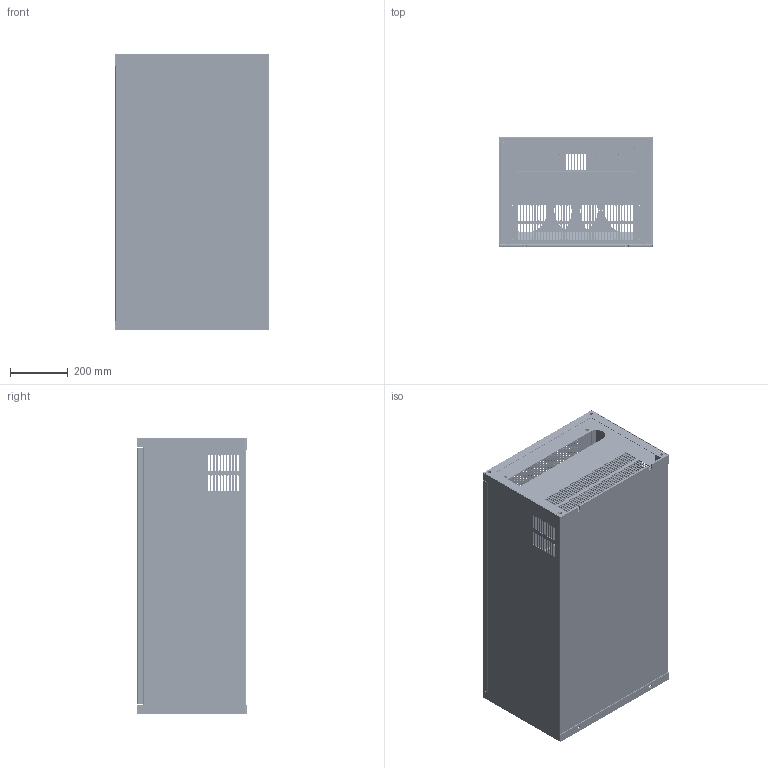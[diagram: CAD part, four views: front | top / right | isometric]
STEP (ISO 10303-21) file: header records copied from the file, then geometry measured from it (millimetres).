
FILE_DESCRIPTION (( 'STEP AP214' ), '1' );
FILE_NAME ('ﾂ-160ﾊ-ﾍ132ﾊ-380-0-0; ﾂ-185ﾊ-ﾍ160ﾊ-380-0-0; ﾂ-200ﾊ-ﾍ185ﾊ-380-0-0.STEP', '2022-06-04T08:39:43', ( '' ), ( '' ), 'SwSTEP 2.0', 'SolidWorks 2018', '' );
FILE_SCHEMA (( 'AUTOMOTIVE_DESIGN' ));
Length unit declared in the file: millimetre
Products named in the file (56): E180-132-321_ASM^OptiCor ﾂ-160ﾊ-ﾍ132ﾊ-380-0-0-0; OptiCor ﾂ-185ﾊ-ﾍ160ﾊ-380-0-0-0; OptiCor ﾂ-200ﾊ-ﾍ185ﾊ-380-0-0-0(2)_ﾂ-160ﾊ-ﾍ132ﾊ-380-0-0; ﾂ-185ﾊ-ﾍ160ﾊ-380-0-0; ﾂ-200ﾊ-ﾍ185ﾊ-380-0-0; E180-132-301_ASM^E180-132-201_ASM_OptiCor ﾂ-160ﾊ-ﾍ132ﾊ-380-0-0-0; OptiCor ﾂ-185ﾊ-ﾍ160ﾊ-380-0-0-0; OptiCor ﾂ-200ﾊ-ﾍ185ﾊ-380-0-0-0(2)_ﾂ-160ﾊ-ﾍ132ﾊ-380-0-0; ﾂ-185ﾊ-ﾍ160ﾊ-380-0-0; ﾂ-200ﾊ-ﾍ185ﾊ-3~; E180-132-302___ _____________ _____________^E180-132-201_ASM_OptiCor ﾂ-160ﾊ-ﾍ132ﾊ-380-0-0-0; OptiCor ﾂ-185ﾊ-ﾍ160ﾊ-380-0-0-0; OptiCor ﾂ-200ﾊ-ﾍ185ﾊ-380-0-0-0(2)_ﾂ-160ﾊ-ﾍ132ﾊ-380-0-0; ﾂ-185ﾊ-ﾍ1~; S-M4-1___ _____________ _____________^E180-132-321_ASM_OptiCor ﾂ-160ﾊ-ﾍ132ﾊ-380-0-0-0; OptiCor ﾂ-185ﾊ-ﾍ160ﾊ-380-0-0-0; OptiCor ﾂ-200ﾊ-ﾍ185ﾊ-380-0-0-0(2)_ﾂ-160ﾊ-ﾍ132ﾊ-380-0-0; ﾂ-185ﾊ-ﾍ160ﾊ-38~; M10_GB13681___ _____________ _____________^E180-132-301_ASM_E180-132-201_ASM_OptiCor ﾂ-160ﾊ-ﾍ132ﾊ-380-0-0-0; OptiCor ﾂ-185ﾊ-ﾍ160ﾊ-380-0-0-0; OptiCor ﾂ-200ﾊ-ﾍ185ﾊ-380-0-0-0(2)_ﾂ-160ﾊ-ﾍ132ﾊ-38~; E180-132-313_ASM^E180-132-201_ASM_OptiCor ﾂ-160ﾊ-ﾍ132ﾊ-380-0-0-0; OptiCor ﾂ-185ﾊ-ﾍ160ﾊ-380-0-0-0; OptiCor ﾂ-200ﾊ-ﾍ185ﾊ-380-0-0-0(2)_ﾂ-160ﾊ-ﾍ132ﾊ-380-0-0; ﾂ-185ﾊ-ﾍ160ﾊ-380-0-0; ﾂ-200ﾊ-ﾍ185ﾊ-3~; E180-132-321___ _____________ _____________^E180-132-321_ASM_OptiCor ﾂ-160ﾊ-ﾍ132ﾊ-380-0-0-0; OptiCor ﾂ-185ﾊ-ﾍ160ﾊ-380-0-0-0; OptiCor ﾂ-200ﾊ-ﾍ185ﾊ-380-0-0-0(2)_ﾂ-160ﾊ-ﾍ132ﾊ-380-0-0; ﾂ-185ﾊ-ﾍ1~; E180-132-301___ _____________ _____________^E180-132-301_ASM_E180-132-201_ASM_OptiCor ﾂ-160ﾊ-ﾍ132ﾊ-380-0-0-0; OptiCor ﾂ-185ﾊ-ﾍ160ﾊ-380-0-0-0; OptiCor ﾂ-200ﾊ-ﾍ185ﾊ-380-0-0-0(2)_ﾂ-160ﾊ-ﾍ132ﾊ-3~; S-M4-1___ _____________ _____________^E180-132-313_ASM_E180-132-201_ASM_OptiCor ﾂ-160ﾊ-ﾍ132ﾊ-380-0-0-0; OptiCor ﾂ-185ﾊ-ﾍ160ﾊ-380-0-0-0; OptiCor ﾂ-200ﾊ-ﾍ185ﾊ-380-0-0-0(2)_ﾂ-160ﾊ-ﾍ132ﾊ-380-0-0~; E180-132-320_ASM^OptiCor ﾂ-160ﾊ-ﾍ132ﾊ-380-0-0-0; OptiCor ﾂ-185ﾊ-ﾍ160ﾊ-380-0-0-0; OptiCor ﾂ-200ﾊ-ﾍ185ﾊ-380-0-0-0(2)_ﾂ-160ﾊ-ﾍ132ﾊ-380-0-0; ﾂ-185ﾊ-ﾍ160ﾊ-380-0-0; ﾂ-200ﾊ-ﾍ185ﾊ-380-0-0; E180-132-313___ _____________ _____________^E180-132-313_ASM_E180-132-201_ASM_OptiCor ﾂ-160ﾊ-ﾍ132ﾊ-380-0-0-0; OptiCor ﾂ-185ﾊ-ﾍ160ﾊ-380-0-0-0; OptiCor ﾂ-200ﾊ-ﾍ185ﾊ-380-0-0-0(2)_ﾂ-160ﾊ-ﾍ132ﾊ-3~; E180-132-320___ _____________ _____________^E180-132-320_ASM_OptiCor ﾂ-160ﾊ-ﾍ132ﾊ-380-0-0-0; OptiCor ﾂ-185ﾊ-ﾍ160ﾊ-380-0-0-0; OptiCor ﾂ-200ﾊ-ﾍ185ﾊ-380-0-0-0(2)_ﾂ-160ﾊ-ﾍ132ﾊ-380-0-0; ﾂ-185ﾊ-ﾍ1~; ﾂ-160ﾊ-ﾍ132ﾊ-380-0-0; ﾂ-185ﾊ-ﾍ160ﾊ-380-0-0; ﾂ-200ﾊ-ﾍ185ﾊ-380-0-0; E180-132-312_ASM^E180-132-201_ASM_OptiCor ﾂ-160ﾊ-ﾍ132ﾊ-380-0-0-0; OptiCor ﾂ-185ﾊ-ﾍ160ﾊ-380-0-0-0; OptiCor ﾂ-200ﾊ-ﾍ185ﾊ-380-0-0-0(2)_ﾂ-160ﾊ-ﾍ132ﾊ-380-0-0; ﾂ-185ﾊ-ﾍ160ﾊ-380-0-0; ﾂ-200ﾊ-ﾍ185ﾊ-3~; E180-018-305_ASM^E180-132-320_ASM_OptiCor ﾂ-160ﾊ-ﾍ132ﾊ-380-0-0-0; OptiCor ﾂ-185ﾊ-ﾍ160ﾊ-380-0-0-0; OptiCor ﾂ-200ﾊ-ﾍ185ﾊ-380-0-0-0(2)_ﾂ-160ﾊ-ﾍ132ﾊ-380-0-0; ﾂ-185ﾊ-ﾍ160ﾊ-380-0-0; ﾂ-200ﾊ-ﾍ185ﾊ-3~; S-M5-1___ _____________ _____________^E180-132-312_ASM_E180-132-201_ASM_OptiCor ﾂ-160ﾊ-ﾍ132ﾊ-380-0-0-0; OptiCor ﾂ-185ﾊ-ﾍ160ﾊ-380-0-0-0; OptiCor ﾂ-200ﾊ-ﾍ185ﾊ-380-0-0-0(2)_ﾂ-160ﾊ-ﾍ132ﾊ-380-0-0~; E180-018-305___ _____________ _____________^E180-018-305_ASM_E180-132-320_ASM_OptiCor ﾂ-160ﾊ-ﾍ132ﾊ-380-0-0-0; OptiCor ﾂ-185ﾊ-ﾍ160ﾊ-380-0-0-0; OptiCor ﾂ-200ﾊ-ﾍ185ﾊ-380-0-0-0(2)_ﾂ-160ﾊ-ﾍ132ﾊ-3~; OptiCor ﾂ-160ﾊ-ﾍ132ﾊ-380-0-0-0; OptiCor ﾂ-185ﾊ-ﾍ160ﾊ-380-0-0-0; OptiCor ﾂ-200ﾊ-ﾍ185ﾊ-380-0-0-0(2)^ﾂ-160ﾊ-ﾍ132ﾊ-380-0-0; ﾂ-185ﾊ-ﾍ160ﾊ-380-0-0; ﾂ-200ﾊ-ﾍ185ﾊ-380-0-0; E180-132-312___ _____________ _____________^E180-132-312_ASM_E180-132-201_ASM_OptiCor ﾂ-160ﾊ-ﾍ132ﾊ-380-0-0-0; OptiCor ﾂ-185ﾊ-ﾍ160ﾊ-380-0-0-0; OptiCor ﾂ-200ﾊ-ﾍ185ﾊ-380-0-0-0(2)_ﾂ-160ﾊ-ﾍ132ﾊ-3~; E180-132-318_ASM^OptiCor ﾂ-160ﾊ-ﾍ132ﾊ-380-0-0-0; OptiCor ﾂ-185ﾊ-ﾍ160ﾊ-380-0-0-0; OptiCor ﾂ-200ﾊ-ﾍ185ﾊ-380-0-0-0(2)_ﾂ-160ﾊ-ﾍ132ﾊ-380-0-0; ﾂ-185ﾊ-ﾍ160ﾊ-380-0-0; ﾂ-200ﾊ-ﾍ185ﾊ-380-0-0; E180-132-319___ _____________ _____________^OptiCor ﾂ-160ﾊ-ﾍ132ﾊ-380-0-0-0; OptiCor ﾂ-185ﾊ-ﾍ160ﾊ-380-0-0-0; OptiCor ﾂ-200ﾊ-ﾍ185ﾊ-380-0-0-0(2)_ﾂ-160ﾊ-ﾍ132ﾊ-380-0-0; ﾂ-185ﾊ-ﾍ160ﾊ-380-0-0; ﾂ-20~; E180-132-311_ASM^E180-132-201_ASM_OptiCor ﾂ-160ﾊ-ﾍ132ﾊ-380-0-0-0; OptiCor ﾂ-185ﾊ-ﾍ160ﾊ-380-0-0-0; OptiCor ﾂ-200ﾊ-ﾍ185ﾊ-380-0-0-0(2)_ﾂ-160ﾊ-ﾍ132ﾊ-380-0-0; ﾂ-185ﾊ-ﾍ160ﾊ-380-0-0; ﾂ-200ﾊ-ﾍ185ﾊ-3~; S-M4-1___ _____________ _____________^E180-132-318_ASM_OptiCor ﾂ-160ﾊ-ﾍ132ﾊ-380-0-0-0; OptiCor ﾂ-185ﾊ-ﾍ160ﾊ-380-0-0-0; OptiCor ﾂ-200ﾊ-ﾍ185ﾊ-380-0-0-0(2)_ﾂ-160ﾊ-ﾍ132ﾊ-380-0-0; ﾂ-185ﾊ-ﾍ160ﾊ-38~; E180-132-317___ _____________ _____________^OptiCor ﾂ-160ﾊ-ﾍ132ﾊ-380-0-0-0; OptiCor ﾂ-185ﾊ-ﾍ160ﾊ-380-0-0-0; OptiCor ﾂ-200ﾊ-ﾍ185ﾊ-380-0-0-0(2)_ﾂ-160ﾊ-ﾍ132ﾊ-380-0-0; ﾂ-185ﾊ-ﾍ160ﾊ-380-0-0; ﾂ-20~; M12_GB13681___ _____________ _____________^E180-132-311_ASM_E180-132-201_ASM_OptiCor ﾂ-160ﾊ-ﾍ132ﾊ-380-0-0-0; OptiCor ﾂ-185ﾊ-ﾍ160ﾊ-380-0-0-0; OptiCor ﾂ-200ﾊ-ﾍ185ﾊ-380-0-0-0(2)_ﾂ-160ﾊ-ﾍ132ﾊ-38~; E180-132-318___ _____________ _____________^E180-132-318_ASM_OptiCor ﾂ-160ﾊ-ﾍ132ﾊ-380-0-0-0; OptiCor ﾂ-185ﾊ-ﾍ160ﾊ-380-0-0-0; OptiCor ﾂ-200ﾊ-ﾍ185ﾊ-380-0-0-0(2)_ﾂ-160ﾊ-ﾍ132ﾊ-380-0-0; ﾂ-185ﾊ-ﾍ1~; E180-132-323_ASM^OptiCor ﾂ-160ﾊ-ﾍ132ﾊ-380-0-0-0; OptiCor ﾂ-185ﾊ-ﾍ160ﾊ-380-0-0-0; OptiCor ﾂ-200ﾊ-ﾍ185ﾊ-380-0-0-0(2)_ﾂ-160ﾊ-ﾍ132ﾊ-380-0-0; ﾂ-185ﾊ-ﾍ160ﾊ-380-0-0; ﾂ-200ﾊ-ﾍ185ﾊ-380-0-0; E180-132-311___ _____________ _____________^E180-132-311_ASM_E180-132-201_ASM_OptiCor ﾂ-160ﾊ-ﾍ132ﾊ-380-0-0-0; OptiCor ﾂ-185ﾊ-ﾍ160ﾊ-380-0-0-0; OptiCor ﾂ-200ﾊ-ﾍ185ﾊ-380-0-0-0(2)_ﾂ-160ﾊ-ﾍ132ﾊ-3~; E180-132-316_ASM^OptiCor ﾂ-160ﾊ-ﾍ132ﾊ-380-0-0-0; OptiCor ﾂ-185ﾊ-ﾍ160ﾊ-380-0-0-0; OptiCor ﾂ-200ﾊ-ﾍ185ﾊ-380-0-0-0(2)_ﾂ-160ﾊ-ﾍ132ﾊ-380-0-0; ﾂ-185ﾊ-ﾍ160ﾊ-380-0-0; ﾂ-200ﾊ-ﾍ185ﾊ-380-0-0; S-M4-1___ _____________ _____________^E180-132-323_ASM_OptiCor ﾂ-160ﾊ-ﾍ132ﾊ-380-0-0-0; OptiCor ﾂ-185ﾊ-ﾍ160ﾊ-380-0-0-0; OptiCor ﾂ-200ﾊ-ﾍ185ﾊ-380-0-0-0(2)_ﾂ-160ﾊ-ﾍ132ﾊ-380-0-0; ﾂ-185ﾊ-ﾍ160ﾊ-380~; E180-132-307_ASM^E180-132-201_ASM_OptiCor ﾂ-160ﾊ-ﾍ132ﾊ-380-0-0-0; OptiCor ﾂ-185ﾊ-ﾍ160ﾊ-380-0-0-0; OptiCor ﾂ-200ﾊ-ﾍ185ﾊ-380-0-0-0(2)_ﾂ-160ﾊ-ﾍ132ﾊ-380-0-0; ﾂ-185ﾊ-ﾍ160ﾊ-380-0-0; ﾂ-200ﾊ-ﾍ185ﾊ-3~; S-M5-1___ _____________ _____________^E180-132-316_ASM_OptiCor ﾂ-160ﾊ-ﾍ132ﾊ-380-0-0-0; OptiCor ﾂ-185ﾊ-ﾍ160ﾊ-380-0-0-0; OptiCor ﾂ-200ﾊ-ﾍ185ﾊ-380-0-0-0(2)_ﾂ-160ﾊ-ﾍ132ﾊ-380-0-0; ﾂ-185ﾊ-ﾍ160ﾊ-38~; E180-132-323___ _____________ _____________^E180-132-323_ASM_OptiCor ﾂ-160ﾊ-ﾍ132ﾊ-380-0-0-0; OptiCor ﾂ-185ﾊ-ﾍ160ﾊ-380-0-0-0; OptiCor ﾂ-200ﾊ-ﾍ185ﾊ-380-0-0-0(2)_ﾂ-160ﾊ-ﾍ132ﾊ-380-0-0; ﾂ-185ﾊ-ﾍ16~; S-M5-1___ _____________ _____________^E180-132-307_ASM_E180-132-201_ASM_OptiCor ﾂ-160ﾊ-ﾍ132ﾊ-380-0-0-0; OptiCor ﾂ-185ﾊ-ﾍ160ﾊ-380-0-0-0; OptiCor ﾂ-200ﾊ-ﾍ185ﾊ-380-0-0-0(2)_ﾂ-160ﾊ-ﾍ132ﾊ-380-0-0; ~; S-M4-1___ _____________ _____________^E180-132-316_ASM_OptiCor ﾂ-160ﾊ-ﾍ132ﾊ-380-0-0-0; OptiCor ﾂ-185ﾊ-ﾍ160ﾊ-380-0-0-0; OptiCor ﾂ-200ﾊ-ﾍ185ﾊ-380-0-0-0(2)_ﾂ-160ﾊ-ﾍ132ﾊ-380-0-0; ﾂ-185ﾊ-ﾍ160ﾊ-38~; E180-132-322_ASM^OptiCor ﾂ-160ﾊ-ﾍ132ﾊ-380-0-0-0; OptiCor ﾂ-185ﾊ-ﾍ160ﾊ-380-0-0-0; OptiCor ﾂ-200ﾊ-ﾍ185ﾊ-380-0-0-0(2)_ﾂ-160ﾊ-ﾍ132ﾊ-380-0-0; ﾂ-185ﾊ-ﾍ160ﾊ-380-0-0; ﾂ-200ﾊ-ﾍ185ﾊ-380-0-0; E180-132-307___ _____________ _____________^E180-132-307_ASM_E180-132-201_ASM_OptiCor ﾂ-160ﾊ-ﾍ132ﾊ-380-0-0-0; OptiCor ﾂ-185ﾊ-ﾍ160ﾊ-380-0-0-0; OptiCor ﾂ-200ﾊ-ﾍ185ﾊ-380-0-0-0(2)_ﾂ-160ﾊ-ﾍ132ﾊ-380~; E180-132-316___ _____________ _____________^E180-132-316_ASM_OptiCor ﾂ-160ﾊ-ﾍ132ﾊ-380-0-0-0; OptiCor ﾂ-185ﾊ-ﾍ160ﾊ-380-0-0-0; OptiCor ﾂ-200ﾊ-ﾍ185ﾊ-380-0-0-0(2)_ﾂ-160ﾊ-ﾍ132ﾊ-380-0-0; ﾂ-185ﾊ-ﾍ1~; S-M3-1___ _____________ _____________^E180-132-322_ASM_OptiCor ﾂ-160ﾊ-ﾍ132ﾊ-380-0-0-0; OptiCor ﾂ-185ﾊ-ﾍ160ﾊ-380-0-0-0; OptiCor ﾂ-200ﾊ-ﾍ185ﾊ-380-0-0-0(2)_ﾂ-160ﾊ-ﾍ132ﾊ-380-0-0; ﾂ-185ﾊ-ﾍ160ﾊ-38~; E180-132-306_ASM^E180-132-201_ASM_OptiCor ﾂ-160ﾊ-ﾍ132ﾊ-380-0-0-0; OptiCor ﾂ-185ﾊ-ﾍ160ﾊ-380-0-0-0; OptiCor ﾂ-200ﾊ-ﾍ185ﾊ-380-0-0-0(2)_ﾂ-160ﾊ-ﾍ132ﾊ-380-0-0; ﾂ-185ﾊ-ﾍ160ﾊ-380-0-0; ﾂ-200ﾊ-ﾍ185ﾊ-3~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
Assembly tree (130 placements, depth 5):
  ﾂ-160ﾊ-ﾍ132ﾊ-380-0-0; ﾂ-185ﾊ-ﾍ160ﾊ-380-0-0; ﾂ-200ﾊ-ﾍ185ﾊ-380-0-0
    OptiCor ﾂ-160ﾊ-ﾍ132ﾊ-380-0-0-0; OptiCor ﾂ-185ﾊ-ﾍ160ﾊ-380-0-0-0; OptiCor ﾂ-200ﾊ-ﾍ185ﾊ-380-0-0-0(2)^ﾂ-160ﾊ-ﾍ132ﾊ-380-0-0; ﾂ-185ﾊ-ﾍ160ﾊ-380-0-0; ﾂ-200ﾊ-ﾍ185ﾊ-380-0-0
      E180-132-201_ASM^OptiCor ﾂ-160ﾊ-ﾍ132ﾊ-380-0-0-0; OptiCor ﾂ-185ﾊ-ﾍ160ﾊ-380-0-0-0; OptiCor ﾂ-200ﾊ-ﾍ185ﾊ-380-0-0-0(2)_ﾂ-160ﾊ-ﾍ132ﾊ-380-0-0; ﾂ-185ﾊ-ﾍ160ﾊ-380-0-0; ﾂ-200ﾊ-ﾍ185ﾊ-380-0-0
        E180-132-301_ASM^E180-132-201_ASM_OptiCor ﾂ-160ﾊ-ﾍ132ﾊ-380-0-0-0; OptiCor ﾂ-185ﾊ-ﾍ160ﾊ-380-0-0-0; OptiCor ﾂ-200ﾊ-ﾍ185ﾊ-380-0-0-0(2)_ﾂ-160ﾊ-ﾍ132ﾊ-380-0-0; ﾂ-185ﾊ-ﾍ160ﾊ-380-0-0; ﾂ-200ﾊ-ﾍ185ﾊ-3~
          E180-132-301___ _____________ _____________^E180-132-301_ASM_E180-132-201_ASM_OptiCor ﾂ-160ﾊ-ﾍ132ﾊ-380-0-0-0; OptiCor ﾂ-185ﾊ-ﾍ160ﾊ-380-0-0-0; OptiCor ﾂ-200ﾊ-ﾍ185ﾊ-380-0-0-0(2)_ﾂ-160ﾊ-ﾍ132ﾊ-3~
          M10_GB13681___ _____________ _____________^E180-132-301_ASM_E180-132-201_ASM_OptiCor ﾂ-160ﾊ-ﾍ132ﾊ-380-0-0-0; OptiCor ﾂ-185ﾊ-ﾍ160ﾊ-380-0-0-0; OptiCor ﾂ-200ﾊ-ﾍ185ﾊ-380-0-0-0(2)_ﾂ-160ﾊ-ﾍ132ﾊ-38~
        E180-132-305_ASM^E180-132-201_ASM_OptiCor ﾂ-160ﾊ-ﾍ132ﾊ-380-0-0-0; OptiCor ﾂ-185ﾊ-ﾍ160ﾊ-380-0-0-0; OptiCor ﾂ-200ﾊ-ﾍ185ﾊ-380-0-0-0(2)_ﾂ-160ﾊ-ﾍ132ﾊ-380-0-0; ﾂ-185ﾊ-ﾍ160ﾊ-380-0-0; ﾂ-200ﾊ-ﾍ185ﾊ-3~  x4
          E180-132-305___ _____________ _____________^E180-132-305_ASM_E180-132-201_ASM_OptiCor ﾂ-160ﾊ-ﾍ132ﾊ-380-0-0-0; OptiCor ﾂ-185ﾊ-ﾍ160ﾊ-380-0-0-0; OptiCor ﾂ-200ﾊ-ﾍ185ﾊ-380-0-0-0(2)_ﾂ-160ﾊ-ﾍ132ﾊ-3~
          S-M4-1___ _____________ _____________^E180-132-305_ASM_E180-132-201_ASM_OptiCor ﾂ-160ﾊ-ﾍ132ﾊ-380-0-0-0; OptiCor ﾂ-185ﾊ-ﾍ160ﾊ-380-0-0-0; OptiCor ﾂ-200ﾊ-ﾍ185ﾊ-380-0-0-0(2)_ﾂ-160ﾊ-ﾍ132ﾊ-380-0-0~
        E180-132-306_ASM^E180-132-201_ASM_OptiCor ﾂ-160ﾊ-ﾍ132ﾊ-380-0-0-0; OptiCor ﾂ-185ﾊ-ﾍ160ﾊ-380-0-0-0; OptiCor ﾂ-200ﾊ-ﾍ185ﾊ-380-0-0-0(2)_ﾂ-160ﾊ-ﾍ132ﾊ-380-0-0; ﾂ-185ﾊ-ﾍ160ﾊ-380-0-0; ﾂ-200ﾊ-ﾍ185ﾊ-3~  x2
          E180-132-306___ _____________ _____________^E180-132-306_ASM_E180-132-201_ASM_OptiCor ﾂ-160ﾊ-ﾍ132ﾊ-380-0-0-0; OptiCor ﾂ-185ﾊ-ﾍ160ﾊ-380-0-0-0; OptiCor ﾂ-200ﾊ-ﾍ185ﾊ-380-0-0-0(2)_ﾂ-160ﾊ-ﾍ132ﾊ-38~
          S-M5-1___ _____________ _____________^E180-132-306_ASM_E180-132-201_ASM_OptiCor ﾂ-160ﾊ-ﾍ132ﾊ-380-0-0-0; OptiCor ﾂ-185ﾊ-ﾍ160ﾊ-380-0-0-0; OptiCor ﾂ-200ﾊ-ﾍ185ﾊ-380-0-0-0(2)_ﾂ-160ﾊ-ﾍ132ﾊ-380-0-0;~
        E180-132-307_ASM^E180-132-201_ASM_OptiCor ﾂ-160ﾊ-ﾍ132ﾊ-380-0-0-0; OptiCor ﾂ-185ﾊ-ﾍ160ﾊ-380-0-0-0; OptiCor ﾂ-200ﾊ-ﾍ185ﾊ-380-0-0-0(2)_ﾂ-160ﾊ-ﾍ132ﾊ-380-0-0; ﾂ-185ﾊ-ﾍ160ﾊ-380-0-0; ﾂ-200ﾊ-ﾍ185ﾊ-3~  x2
          E180-132-307___ _____________ _____________^E180-132-307_ASM_E180-132-201_ASM_OptiCor ﾂ-160ﾊ-ﾍ132ﾊ-380-0-0-0; OptiCor ﾂ-185ﾊ-ﾍ160ﾊ-380-0-0-0; OptiCor ﾂ-200ﾊ-ﾍ185ﾊ-380-0-0-0(2)_ﾂ-160ﾊ-ﾍ132ﾊ-380~
          S-M5-1___ _____________ _____________^E180-132-307_ASM_E180-132-201_ASM_OptiCor ﾂ-160ﾊ-ﾍ132ﾊ-380-0-0-0; OptiCor ﾂ-185ﾊ-ﾍ160ﾊ-380-0-0-0; OptiCor ﾂ-200ﾊ-ﾍ185ﾊ-380-0-0-0(2)_ﾂ-160ﾊ-ﾍ132ﾊ-380-0-0; ~
        E180-132-311_ASM^E180-132-201_ASM_OptiCor ﾂ-160ﾊ-ﾍ132ﾊ-380-0-0-0; OptiCor ﾂ-185ﾊ-ﾍ160ﾊ-380-0-0-0; OptiCor ﾂ-200ﾊ-ﾍ185ﾊ-380-0-0-0(2)_ﾂ-160ﾊ-ﾍ132ﾊ-380-0-0; ﾂ-185ﾊ-ﾍ160ﾊ-380-0-0; ﾂ-200ﾊ-ﾍ185ﾊ-3~
          E180-132-311___ _____________ _____________^E180-132-311_ASM_E180-132-201_ASM_OptiCor ﾂ-160ﾊ-ﾍ132ﾊ-380-0-0-0; OptiCor ﾂ-185ﾊ-ﾍ160ﾊ-380-0-0-0; OptiCor ﾂ-200ﾊ-ﾍ185ﾊ-380-0-0-0(2)_ﾂ-160ﾊ-ﾍ132ﾊ-3~
          M12_GB13681___ _____________ _____________^E180-132-311_ASM_E180-132-201_ASM_OptiCor ﾂ-160ﾊ-ﾍ132ﾊ-380-0-0-0; OptiCor ﾂ-185ﾊ-ﾍ160ﾊ-380-0-0-0; OptiCor ﾂ-200ﾊ-ﾍ185ﾊ-380-0-0-0(2)_ﾂ-160ﾊ-ﾍ132ﾊ-38~  x4
        E180-132-312_ASM^E180-132-201_ASM_OptiCor ﾂ-160ﾊ-ﾍ132ﾊ-380-0-0-0; OptiCor ﾂ-185ﾊ-ﾍ160ﾊ-380-0-0-0; OptiCor ﾂ-200ﾊ-ﾍ185ﾊ-380-0-0-0(2)_ﾂ-160ﾊ-ﾍ132ﾊ-380-0-0; ﾂ-185ﾊ-ﾍ160ﾊ-380-0-0; ﾂ-200ﾊ-ﾍ185ﾊ-3~
          E180-132-312___ _____________ _____________^E180-132-312_ASM_E180-132-201_ASM_OptiCor ﾂ-160ﾊ-ﾍ132ﾊ-380-0-0-0; OptiCor ﾂ-185ﾊ-ﾍ160ﾊ-380-0-0-0; OptiCor ﾂ-200ﾊ-ﾍ185ﾊ-380-0-0-0(2)_ﾂ-160ﾊ-ﾍ132ﾊ-3~
          S-M5-1___ _____________ _____________^E180-132-312_ASM_E180-132-201_ASM_OptiCor ﾂ-160ﾊ-ﾍ132ﾊ-380-0-0-0; OptiCor ﾂ-185ﾊ-ﾍ160ﾊ-380-0-0-0; OptiCor ﾂ-200ﾊ-ﾍ185ﾊ-380-0-0-0(2)_ﾂ-160ﾊ-ﾍ132ﾊ-380-0-0~  x3
        E180-132-313_ASM^E180-132-201_ASM_OptiCor ﾂ-160ﾊ-ﾍ132ﾊ-380-0-0-0; OptiCor ﾂ-185ﾊ-ﾍ160ﾊ-380-0-0-0; OptiCor ﾂ-200ﾊ-ﾍ185ﾊ-380-0-0-0(2)_ﾂ-160ﾊ-ﾍ132ﾊ-380-0-0; ﾂ-185ﾊ-ﾍ160ﾊ-380-0-0; ﾂ-200ﾊ-ﾍ185ﾊ-3~  x4
          E180-132-313___ _____________ _____________^E180-132-313_ASM_E180-132-201_ASM_OptiCor ﾂ-160ﾊ-ﾍ132ﾊ-380-0-0-0; OptiCor ﾂ-185ﾊ-ﾍ160ﾊ-380-0-0-0; OptiCor ﾂ-200ﾊ-ﾍ185ﾊ-380-0-0-0(2)_ﾂ-160ﾊ-ﾍ132ﾊ-3~
          S-M4-1___ _____________ _____________^E180-132-313_ASM_E180-132-201_ASM_OptiCor ﾂ-160ﾊ-ﾍ132ﾊ-380-0-0-0; OptiCor ﾂ-185ﾊ-ﾍ160ﾊ-380-0-0-0; OptiCor ﾂ-200ﾊ-ﾍ185ﾊ-380-0-0-0(2)_ﾂ-160ﾊ-ﾍ132ﾊ-380-0-0~
        E180-132-302___ _____________ _____________^E180-132-201_ASM_OptiCor ﾂ-160ﾊ-ﾍ132ﾊ-380-0-0-0; OptiCor ﾂ-185ﾊ-ﾍ160ﾊ-380-0-0-0; OptiCor ﾂ-200ﾊ-ﾍ185ﾊ-380-0-0-0(2)_ﾂ-160ﾊ-ﾍ132ﾊ-380-0-0; ﾂ-185ﾊ-ﾍ1~  x2
        E180-132-303___ _____________ _____________^E180-132-201_ASM_OptiCor ﾂ-160ﾊ-ﾍ132ﾊ-380-0-0-0; OptiCor ﾂ-185ﾊ-ﾍ160ﾊ-380-0-0-0; OptiCor ﾂ-200ﾊ-ﾍ185ﾊ-380-0-0-0(2)_ﾂ-160ﾊ-ﾍ132ﾊ-380-0-0; ﾂ-185ﾊ-ﾍ1~
        E180-132-308___ _____________ _____________^E180-132-201_ASM_OptiCor ﾂ-160ﾊ-ﾍ132ﾊ-380-0-0-0; OptiCor ﾂ-185ﾊ-ﾍ160ﾊ-380-0-0-0; OptiCor ﾂ-200ﾊ-ﾍ185ﾊ-380-0-0-0(2)_ﾂ-160ﾊ-ﾍ132ﾊ-380-0-0; ﾂ-185ﾊ-ﾍ1~
        E180-132-309___ _____________ _____________^E180-132-201_ASM_OptiCor ﾂ-160ﾊ-ﾍ132ﾊ-380-0-0-0; OptiCor ﾂ-185ﾊ-ﾍ160ﾊ-380-0-0-0; OptiCor ﾂ-200ﾊ-ﾍ185ﾊ-380-0-0-0(2)_ﾂ-160ﾊ-ﾍ132ﾊ-380-0-0; ﾂ-185ﾊ-ﾍ1~
        E180-132-310___ _____________ _____________^E180-132-201_ASM_OptiCor ﾂ-160ﾊ-ﾍ132ﾊ-380-0-0-0; OptiCor ﾂ-185ﾊ-ﾍ160ﾊ-380-0-0-0; OptiCor ﾂ-200ﾊ-ﾍ185ﾊ-380-0-0-0(2)_ﾂ-160ﾊ-ﾍ132ﾊ-380-0-0; ﾂ-185ﾊ-ﾍ1~
        E180-132-315___ _____________ _____________^E180-132-201_ASM_OptiCor ﾂ-160ﾊ-ﾍ132ﾊ-380-0-0-0; OptiCor ﾂ-185ﾊ-ﾍ160ﾊ-380-0-0-0; OptiCor ﾂ-200ﾊ-ﾍ185ﾊ-380-0-0-0(2)_ﾂ-160ﾊ-ﾍ132ﾊ-380-0-0; ﾂ-185ﾊ-ﾍ1~
      E180-132-316_ASM^OptiCor ﾂ-160ﾊ-ﾍ132ﾊ-380-0-0-0; OptiCor ﾂ-185ﾊ-ﾍ160ﾊ-380-0-0-0; OptiCor ﾂ-200ﾊ-ﾍ185ﾊ-380-0-0-0(2)_ﾂ-160ﾊ-ﾍ132ﾊ-380-0-0; ﾂ-185ﾊ-ﾍ160ﾊ-380-0-0; ﾂ-200ﾊ-ﾍ185ﾊ-380-0-0
        E180-132-316___ _____________ _____________^E180-132-316_ASM_OptiCor ﾂ-160ﾊ-ﾍ132ﾊ-380-0-0-0; OptiCor ﾂ-185ﾊ-ﾍ160ﾊ-380-0-0-0; OptiCor ﾂ-200ﾊ-ﾍ185ﾊ-380-0-0-0(2)_ﾂ-160ﾊ-ﾍ132ﾊ-380-0-0; ﾂ-185ﾊ-ﾍ1~
        S-M4-1___ _____________ _____________^E180-132-316_ASM_OptiCor ﾂ-160ﾊ-ﾍ132ﾊ-380-0-0-0; OptiCor ﾂ-185ﾊ-ﾍ160ﾊ-380-0-0-0; OptiCor ﾂ-200ﾊ-ﾍ185ﾊ-380-0-0-0(2)_ﾂ-160ﾊ-ﾍ132ﾊ-380-0-0; ﾂ-185ﾊ-ﾍ160ﾊ-38~  x4
        S-M5-1___ _____________ _____________^E180-132-316_ASM_OptiCor ﾂ-160ﾊ-ﾍ132ﾊ-380-0-0-0; OptiCor ﾂ-185ﾊ-ﾍ160ﾊ-380-0-0-0; OptiCor ﾂ-200ﾊ-ﾍ185ﾊ-380-0-0-0(2)_ﾂ-160ﾊ-ﾍ132ﾊ-380-0-0; ﾂ-185ﾊ-ﾍ160ﾊ-38~  x7
      E180-132-318_ASM^OptiCor ﾂ-160ﾊ-ﾍ132ﾊ-380-0-0-0; OptiCor ﾂ-185ﾊ-ﾍ160ﾊ-380-0-0-0; OptiCor ﾂ-200ﾊ-ﾍ185ﾊ-380-0-0-0(2)_ﾂ-160ﾊ-ﾍ132ﾊ-380-0-0; ﾂ-185ﾊ-ﾍ160ﾊ-380-0-0; ﾂ-200ﾊ-ﾍ185ﾊ-380-0-0
        E180-132-318___ _____________ _____________^E180-132-318_ASM_OptiCor ﾂ-160ﾊ-ﾍ132ﾊ-380-0-0-0; OptiCor ﾂ-185ﾊ-ﾍ160ﾊ-380-0-0-0; OptiCor ﾂ-200ﾊ-ﾍ185ﾊ-380-0-0-0(2)_ﾂ-160ﾊ-ﾍ132ﾊ-380-0-0; ﾂ-185ﾊ-ﾍ1~
        S-M4-1___ _____________ _____________^E180-132-318_ASM_OptiCor ﾂ-160ﾊ-ﾍ132ﾊ-380-0-0-0; OptiCor ﾂ-185ﾊ-ﾍ160ﾊ-380-0-0-0; OptiCor ﾂ-200ﾊ-ﾍ185ﾊ-380-0-0-0(2)_ﾂ-160ﾊ-ﾍ132ﾊ-380-0-0; ﾂ-185ﾊ-ﾍ160ﾊ-38~  x24
      E180-132-320_ASM^OptiCor ﾂ-160ﾊ-ﾍ132ﾊ-380-0-0-0; OptiCor ﾂ-185ﾊ-ﾍ160ﾊ-380-0-0-0; OptiCor ﾂ-200ﾊ-ﾍ185ﾊ-380-0-0-0(2)_ﾂ-160ﾊ-ﾍ132ﾊ-380-0-0; ﾂ-185ﾊ-ﾍ160ﾊ-380-0-0; ﾂ-200ﾊ-ﾍ185ﾊ-380-0-0
        E180-018-305_ASM^E180-132-320_ASM_OptiCor ﾂ-160ﾊ-ﾍ132ﾊ-380-0-0-0; OptiCor ﾂ-185ﾊ-ﾍ160ﾊ-380-0-0-0; OptiCor ﾂ-200ﾊ-ﾍ185ﾊ-380-0-0-0(2)_ﾂ-160ﾊ-ﾍ132ﾊ-380-0-0; ﾂ-185ﾊ-ﾍ160ﾊ-380-0-0; ﾂ-200ﾊ-ﾍ185ﾊ-3~
          E180-018-305___ _____________ _____________^E180-018-305_ASM_E180-132-320_ASM_OptiCor ﾂ-160ﾊ-ﾍ132ﾊ-380-0-0-0; OptiCor ﾂ-185ﾊ-ﾍ160ﾊ-380-0-0-0; OptiCor ﾂ-200ﾊ-ﾍ185ﾊ-380-0-0-0(2)_ﾂ-160ﾊ-ﾍ132ﾊ-3~
        E180-132-320___ _____________ _____________^E180-132-320_ASM_OptiCor ﾂ-160ﾊ-ﾍ132ﾊ-380-0-0-0; OptiCor ﾂ-185ﾊ-ﾍ160ﾊ-380-0-0-0; OptiCor ﾂ-200ﾊ-ﾍ185ﾊ-380-0-0-0(2)_ﾂ-160ﾊ-ﾍ132ﾊ-380-0-0; ﾂ-185ﾊ-ﾍ1~
      E180-132-321_ASM^OptiCor ﾂ-160ﾊ-ﾍ132ﾊ-380-0-0-0; OptiCor ﾂ-185ﾊ-ﾍ160ﾊ-380-0-0-0; OptiCor ﾂ-200ﾊ-ﾍ185ﾊ-380-0-0-0(2)_ﾂ-160ﾊ-ﾍ132ﾊ-380-0-0; ﾂ-185ﾊ-ﾍ160ﾊ-380-0-0; ﾂ-200ﾊ-ﾍ185ﾊ-380-0-0  x2
        E180-132-321___ _____________ _____________^E180-132-321_ASM_OptiCor ﾂ-160ﾊ-ﾍ132ﾊ-380-0-0-0; OptiCor ﾂ-185ﾊ-ﾍ160ﾊ-380-0-0-0; OptiCor ﾂ-200ﾊ-ﾍ185ﾊ-380-0-0-0(2)_ﾂ-160ﾊ-ﾍ132ﾊ-380-0-0; ﾂ-185ﾊ-ﾍ1~
        S-M4-1___ _____________ _____________^E180-132-321_ASM_OptiCor ﾂ-160ﾊ-ﾍ132ﾊ-380-0-0-0; OptiCor ﾂ-185ﾊ-ﾍ160ﾊ-380-0-0-0; OptiCor ﾂ-200ﾊ-ﾍ185ﾊ-380-0-0-0(2)_ﾂ-160ﾊ-ﾍ132ﾊ-380-0-0; ﾂ-185ﾊ-ﾍ160ﾊ-38~
      E180-132-322_ASM^OptiCor ﾂ-160ﾊ-ﾍ132ﾊ-380-0-0-0; OptiCor ﾂ-185ﾊ-ﾍ160ﾊ-380-0-0-0; OptiCor ﾂ-200ﾊ-ﾍ185ﾊ-380-0-0-0(2)_ﾂ-160ﾊ-ﾍ132ﾊ-380-0-0; ﾂ-185ﾊ-ﾍ160ﾊ-380-0-0; ﾂ-200ﾊ-ﾍ185ﾊ-380-0-0
        E180-018-305_ASM^E180-132-322_ASM_OptiCor ﾂ-160ﾊ-ﾍ132ﾊ-380-0-0-0; OptiCor ﾂ-185ﾊ-ﾍ160ﾊ-380-0-0-0; OptiCor ﾂ-200ﾊ-ﾍ185ﾊ-380-0-0-0(2)_ﾂ-160ﾊ-ﾍ132ﾊ-380-0-0; ﾂ-185ﾊ-ﾍ160ﾊ-380-0-0; ﾂ-200ﾊ-ﾍ185ﾊ-3~
          E180-018-305___ _____________ _____________^E180-018-305_ASM_E180-132-322_ASM_OptiCor ﾂ-160ﾊ-ﾍ132ﾊ-380-0-0-0; OptiCor ﾂ-185ﾊ-ﾍ160ﾊ-380-0-0-0; OptiCor ﾂ-200ﾊ-ﾍ185ﾊ-380-0-0-0(2)_ﾂ-160ﾊ-ﾍ132ﾊ-3~
        E180-132-322___ _____________ _____________^E180-132-322_ASM_OptiCor ﾂ-160ﾊ-ﾍ132ﾊ-380-0-0-0; OptiCor ﾂ-185ﾊ-ﾍ160ﾊ-380-0-0-0; OptiCor ﾂ-200ﾊ-ﾍ185ﾊ-380-0-0-0(2)_ﾂ-160ﾊ-ﾍ132ﾊ-380-0-0; ﾂ-185ﾊ-ﾍ1~
        BSO-M3-8___ _____________ _____________^E180-132-322_ASM_OptiCor ﾂ-160ﾊ-ﾍ132ﾊ-380-0-0-0; OptiCor ﾂ-185ﾊ-ﾍ160ﾊ-380-0-0-0; OptiCor ﾂ-200ﾊ-ﾍ185ﾊ-380-0-0-0(2)_ﾂ-160ﾊ-ﾍ132ﾊ-380-0-0; ﾂ-185ﾊ-ﾍ160ﾊ-~  x4
        S-M4-1___ _____________ _____________^E180-132-322_ASM_OptiCor ﾂ-160ﾊ-ﾍ132ﾊ-380-0-0-0; OptiCor ﾂ-185ﾊ-ﾍ160ﾊ-380-0-0-0; OptiCor ﾂ-200ﾊ-ﾍ185ﾊ-380-0-0-0(2)_ﾂ-160ﾊ-ﾍ132ﾊ-380-0-0; ﾂ-185ﾊ-ﾍ160ﾊ-38~  x5
        S-M3-1___ _____________ _____________^E180-132-322_ASM_OptiCor ﾂ-160ﾊ-ﾍ132ﾊ-380-0-0-0; OptiCor ﾂ-185ﾊ-ﾍ160ﾊ-380-0-0-0; OptiCor ﾂ-200ﾊ-ﾍ185ﾊ-380-0-0-0(2)_ﾂ-160ﾊ-ﾍ132ﾊ-380-0-0; ﾂ-185ﾊ-ﾍ160ﾊ-38~  x9
      E180-132-323_ASM^OptiCor ﾂ-160ﾊ-ﾍ132ﾊ-380-0-0-0; OptiCor ﾂ-185ﾊ-ﾍ160ﾊ-380-0-0-0; OptiCor ﾂ-200ﾊ-ﾍ185ﾊ-380-0-0-0(2)_ﾂ-160ﾊ-ﾍ132ﾊ-380-0-0; ﾂ-185ﾊ-ﾍ160ﾊ-380-0-0; ﾂ-200ﾊ-ﾍ185ﾊ-380-0-0
        E180-132-323___ _____________ _____________^E180-132-323_ASM_OptiCor ﾂ-160ﾊ-ﾍ132ﾊ-380-0-0-0; OptiCor ﾂ-185ﾊ-ﾍ160ﾊ-380-0-0-0; OptiCor ﾂ-200ﾊ-ﾍ185ﾊ-380-0-0-0(2)_ﾂ-160ﾊ-ﾍ132ﾊ-380-0-0; ﾂ-185ﾊ-ﾍ16~
        S-M4-1___ _____________ _____________^E180-132-323_ASM_OptiCor ﾂ-160ﾊ-ﾍ132ﾊ-380-0-0-0; OptiCor ﾂ-185ﾊ-ﾍ160ﾊ-380-0-0-0; OptiCor ﾂ-200ﾊ-ﾍ185ﾊ-380-0-0-0(2)_ﾂ-160ﾊ-ﾍ132ﾊ-380-0-0; ﾂ-185ﾊ-ﾍ160ﾊ-380~  x10
      E180-132-317___ _____________ _____________^OptiCor ﾂ-160ﾊ-ﾍ132ﾊ-380-0-0-0; OptiCor ﾂ-185ﾊ-ﾍ160ﾊ-380-0-0-0; OptiCor ﾂ-200ﾊ-ﾍ185ﾊ-380-0-0-0(2)_ﾂ-160ﾊ-ﾍ132ﾊ-380-0-0; ﾂ-185ﾊ-ﾍ160ﾊ-380-0-0; ﾂ-20~
      E180-132-319___ _____________ _____________^OptiCor ﾂ-160ﾊ-ﾍ132ﾊ-380-0-0-0; OptiCor ﾂ-185ﾊ-ﾍ160ﾊ-380-0-0-0; OptiCor ﾂ-200ﾊ-ﾍ185ﾊ-380-0-0-0(2)_ﾂ-160ﾊ-ﾍ132ﾊ-380-0-0; ﾂ-185ﾊ-ﾍ160ﾊ-380-0-0; ﾂ-20~
Bounding box: 530 x 378 x 950 mm (x, y, z)
Volume: 5599622 mm3; surface area: 7197524.5 mm2
Topology: 129 solids, 144 shells, 4042 faces, 10848 edges, 7152 vertices
Faces by surface type: cylinder 2688, plane 1230, cone 124
Entity records: 108706 total; most frequent: CARTESIAN_POINT 21532, DIRECTION 18338, ORIENTED_EDGE 17024, EDGE_CURVE 8530, AXIS2_PLACEMENT_3D 7216, VERTEX_POINT 5630, EDGE_LOOP 4804, CIRCLE 4076
